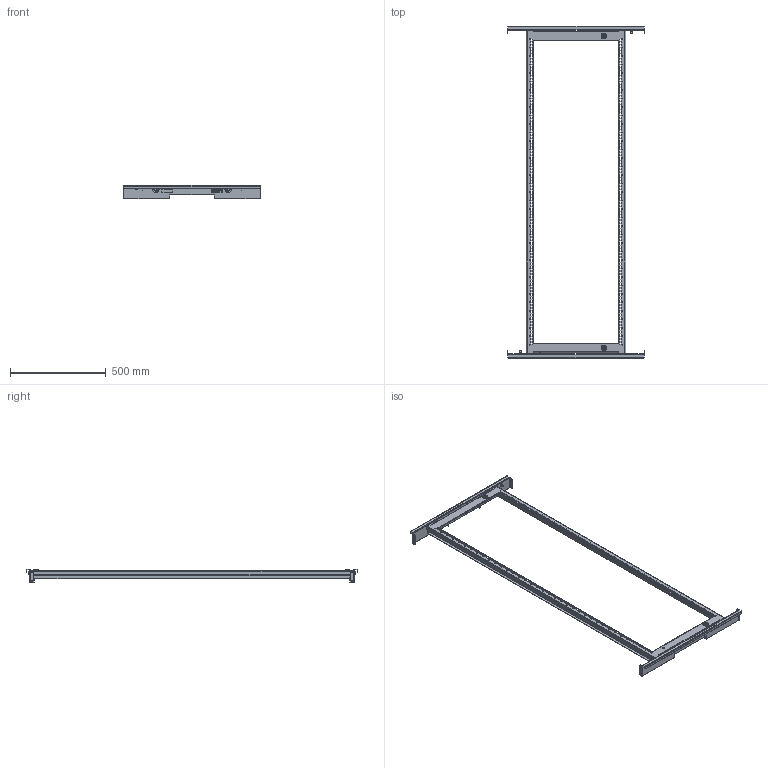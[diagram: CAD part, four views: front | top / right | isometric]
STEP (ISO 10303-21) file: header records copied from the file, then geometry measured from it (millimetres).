
FILE_DESCRIPTION (( 'STEP AP203' ), '1' );
FILE_NAME ('MC 180.80 IR Ðàìà 19'''' ïîâîðîòíàÿ.STEP', '2013-01-15T13:35:56', ( 'System' ), ( '' ), 'SwSTEP 2.0', 'SolidWorks 2012', '' );
FILE_SCHEMA (( 'CONFIG_CONTROL_DESIGN' ));
Products named in the file (1): MC 180.80 IR Ðàìà 19'''' ïîâîðîòíàÿ
Bounding box: 720.5 x 1738 x 68.85 mm (x, y, z)
Surface area: 1217989.9 mm2 (no closed solid volume)
Topology: 0 solids, 29 shells, 3904 faces, 10972 edges, 7134 vertices
Faces by surface type: plane 2182, cylinder 1522, bspline 104, cone 74, torus 22
Entity records: 135110 total; most frequent: CARTESIAN_POINT 31099, ORIENTED_EDGE 21904, DIRECTION 21602, EDGE_CURVE 10956, LINE 7268, VECTOR 7268, AXIS2_PLACEMENT_3D 7167, VERTEX_POINT 7134
